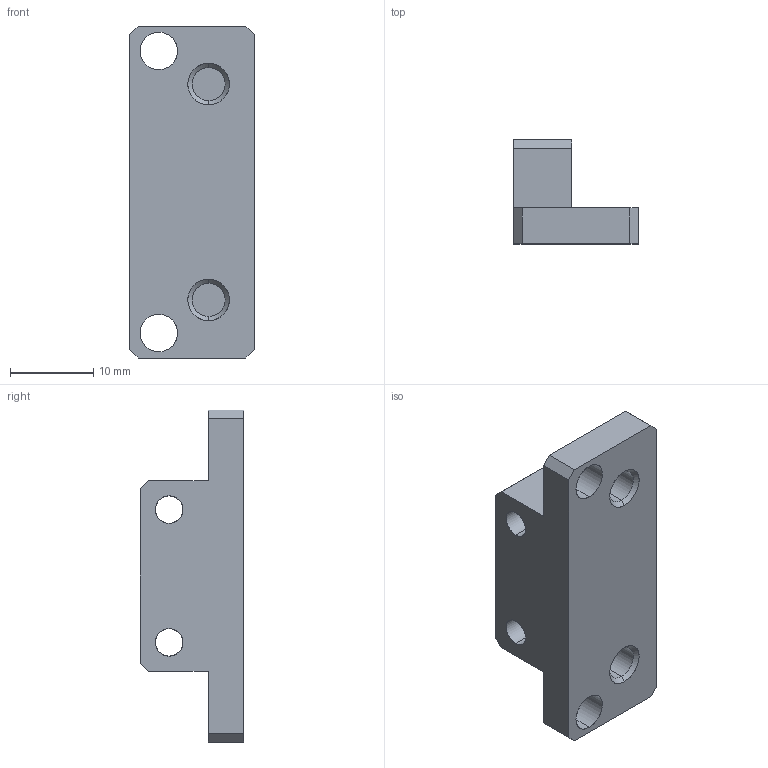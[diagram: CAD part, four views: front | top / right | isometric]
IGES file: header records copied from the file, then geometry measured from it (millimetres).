
Start section: SolidWorks IGES file using analytic representation for surfaces
Bounding box: 15 x 12.5 x 40 mm (x, y, z)
Surface area: 2386.1 mm2 (no closed solid volume)
Topology: 0 solids, 0 shells, 38 faces, 548 edges, 548 vertices
Faces by surface type: revolution 20, bspline 18
